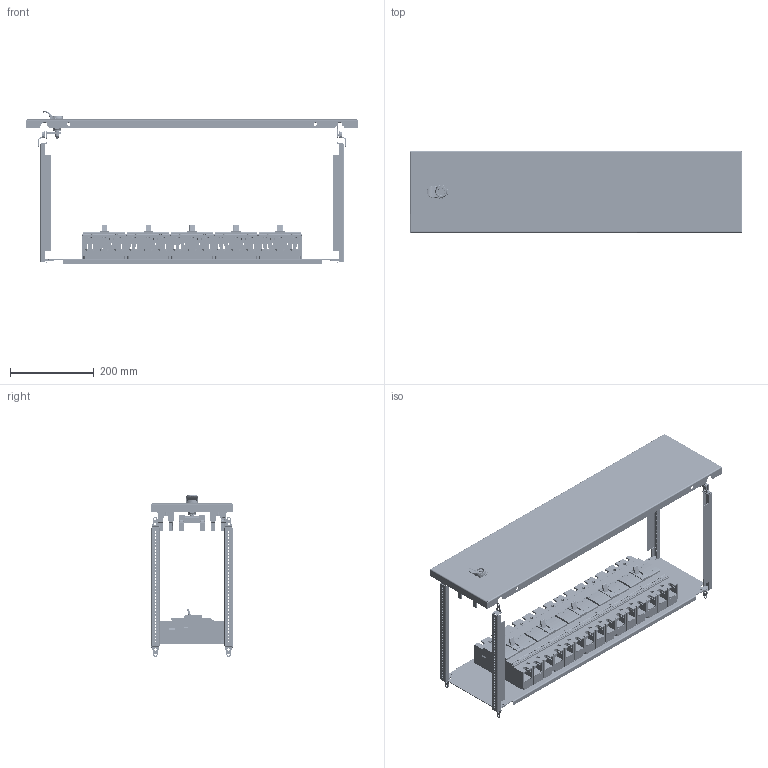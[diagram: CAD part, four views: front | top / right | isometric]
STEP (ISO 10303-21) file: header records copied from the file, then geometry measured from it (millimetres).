
FILE_DESCRIPTION(('CAx-IF Rec.Pracs.---Model Styling and Organization---1.2---2011-12-15','CAx-IF Rec.Pracs.---Geometric and Assembly Validation Properties---4.1---2014-06-16','CAx-IF Rec.Pracs.---PMI Polyline Presentation---2.0---2013-05-24'),'2;1');
FILE_NAME('R5PKEB7V81113.stp','2021-07-29T02:41:38+03:00',(''),(''),'STEP Interface 4.4 by CT CoreTechnologie','3D_Evolution4.4 by CT CoreTechnologie','');
FILE_SCHEMA(('AUTOMOTIVE_DESIGN { 1 0 10303 214 1 1 1 1 }'));
Length unit declared in the file: millimetre
Products named in the file (1): R5PKEB7V81113
Bounding box: 794 x 195 x 386.89 mm (x, y, z)
Surface area: 1518868.2 mm2 (no closed solid volume)
Topology: 0 solids, 149 shells, 6535 faces, 25072 edges, 17995 vertices
Faces by surface type: plane 3697, cylinder 2373, bspline 465
Entity records: 277812 total; most frequent: CARTESIAN_POINT 69186, DIRECTION 42222, ORIENTED_EDGE 40781, EDGE_CURVE 25006, VECTOR 18056, LINE 18056, VERTEX_POINT 17995, AXIS2_PLACEMENT_3D 12083
